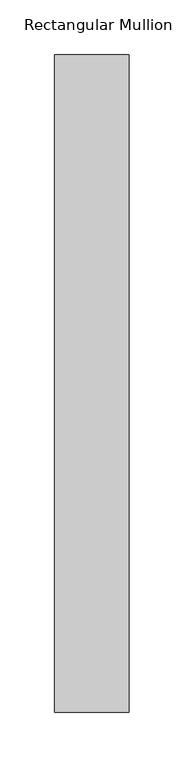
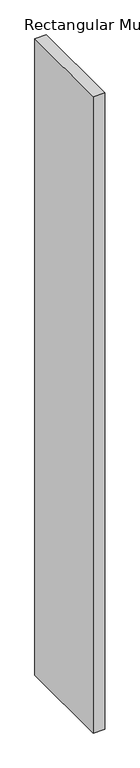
"""IFC4 building model written with IfcOpenShell, lengths in millimetres: member geometry, Rectangular Mullion : DucoSun Cubic Design louvre 600."""

from ifc_helpers import new_model, si_unit, frame, origin, place, context, project, spatial, polyline, outline, extrude, source, transform, mapped, element, save


def rectangular_mullion_be024750(model_context):
    return source(origin(), model_context, "Body", "SweptSolid", [
        extrude(outline(polyline([(34.0, -600.0), (-34.0, -600.0), (-34.0, 0.0), (34.0, 0.0), (34.0, -600.0)])), frame((0.0, 0.0, -4000.0), z_axis=(0.0, 0.0, 1.0), x_axis=(1.0, 0.0, 0.0)), (0.0, 0.0, 1.0), 4000.0),
    ])


if __name__ == "__main__":
    model = new_model("IFC4")
    model_context = context("Model", 3, world=origin())
    ifc_project = project(units=[si_unit("LENGTHUNIT", "METRE", prefix="MILLI")], contexts=[model_context])
    site = spatial("IfcSite", under=ifc_project)
    building = spatial("IfcBuilding", under=site)
    placement = place(None, origin())
    rectangular_mullion_shape = rectangular_mullion_be024750(model_context)
    element("IfcMember", 1, ObjectType="Rectangular Mullion : DucoSun Cubic Design louvre 600", at=placement, inside=building, context=model_context, shape_type="MappedRepresentation", body=[
        mapped(rectangular_mullion_shape, transform((0.0, 0.0, 0.0), x_axis=(1.0, 0.0, 0.0), y_axis=(0.0, 1.0, 0.0), z_axis=(0.0, 0.0, 1.0))),
    ])
    save(model, "model.ifc")
